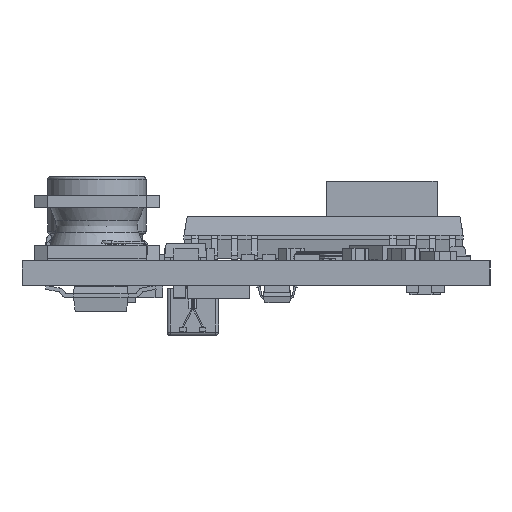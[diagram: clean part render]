
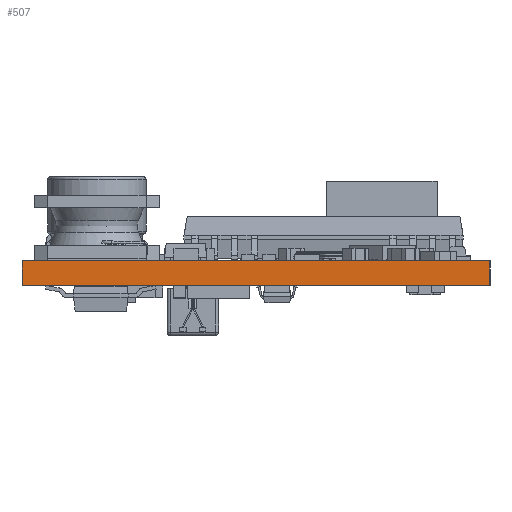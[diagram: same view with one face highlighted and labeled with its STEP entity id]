
A CAD part, left-side view. The second image highlights one B-rep face of the part: STEP entity #507.
In plain terms, the highlighted planar face has unit normal (-1, 0, 0).
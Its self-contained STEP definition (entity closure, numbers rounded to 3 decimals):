
#244 = EDGE_CURVE('',#245,#247,#249,.T.);
#245 = VERTEX_POINT('',#246);
#246 = CARTESIAN_POINT('',(0.,0.,0.));
#247 = VERTEX_POINT('',#248);
#248 = CARTESIAN_POINT('',(0.,0.,1.591));
#249 = SURFACE_CURVE('',#250,(#254,#266),.PCURVE_S1.);
#250 = LINE('',#251,#252);
#251 = CARTESIAN_POINT('',(0.,0.,0.));
#252 = VECTOR('',#253,1.);
#253 = DIRECTION('',(0.,0.,1.));
#254 = PCURVE('',#255,#260);
#255 = PLANE('',#256);
#256 = AXIS2_PLACEMENT_3D('',#257,#258,#259);
#257 = CARTESIAN_POINT('',(0.,0.,0.));
#258 = DIRECTION('',(0.,1.,0.));
#259 = DIRECTION('',(1.,0.,0.));
#260 = DEFINITIONAL_REPRESENTATION('',(#261),#265);
#261 = LINE('',#262,#263);
#262 = CARTESIAN_POINT('',(0.,0.));
#263 = VECTOR('',#264,1.);
#264 = DIRECTION('',(0.,-1.));
#265 = ( GEOMETRIC_REPRESENTATION_CONTEXT(2) 
PARAMETRIC_REPRESENTATION_CONTEXT() REPRESENTATION_CONTEXT('2D SPACE',''
  ) );
#266 = PCURVE('',#267,#272);
#267 = PLANE('',#268);
#268 = AXIS2_PLACEMENT_3D('',#269,#270,#271);
#269 = CARTESIAN_POINT('',(0.,30.,0.));
#270 = DIRECTION('',(1.,0.,0.));
#271 = DIRECTION('',(0.,-1.,0.));
#272 = DEFINITIONAL_REPRESENTATION('',(#273),#277);
#273 = LINE('',#274,#275);
#274 = CARTESIAN_POINT('',(30.,0.));
#275 = VECTOR('',#276,1.);
#276 = DIRECTION('',(0.,-1.));
#277 = ( GEOMETRIC_REPRESENTATION_CONTEXT(2) 
PARAMETRIC_REPRESENTATION_CONTEXT() REPRESENTATION_CONTEXT('2D SPACE',''
  ) );
#295 = PLANE('',#296);
#296 = AXIS2_PLACEMENT_3D('',#297,#298,#299);
#297 = CARTESIAN_POINT('',(0.,0.,1.591));
#298 = DIRECTION('',(0.,0.,-1.));
#299 = DIRECTION('',(-1.,0.,0.));
#349 = PLANE('',#350);
#350 = AXIS2_PLACEMENT_3D('',#351,#352,#353);
#351 = CARTESIAN_POINT('',(0.,0.,0.));
#352 = DIRECTION('',(0.,0.,-1.));
#353 = DIRECTION('',(-1.,0.,0.));
#404 = PLANE('',#405);
#405 = AXIS2_PLACEMENT_3D('',#406,#407,#408);
#406 = CARTESIAN_POINT('',(55.,30.,0.));
#407 = DIRECTION('',(0.,-1.,0.));
#408 = DIRECTION('',(-1.,0.,0.));
#442 = VERTEX_POINT('',#443);
#443 = CARTESIAN_POINT('',(0.,30.,1.591));
#464 = EDGE_CURVE('',#465,#442,#467,.T.);
#465 = VERTEX_POINT('',#466);
#466 = CARTESIAN_POINT('',(0.,30.,0.));
#467 = SURFACE_CURVE('',#468,(#472,#479),.PCURVE_S1.);
#468 = LINE('',#469,#470);
#469 = CARTESIAN_POINT('',(0.,30.,0.));
#470 = VECTOR('',#471,1.);
#471 = DIRECTION('',(0.,0.,1.));
#472 = PCURVE('',#404,#473);
#473 = DEFINITIONAL_REPRESENTATION('',(#474),#478);
#474 = LINE('',#475,#476);
#475 = CARTESIAN_POINT('',(55.,0.));
#476 = VECTOR('',#477,1.);
#477 = DIRECTION('',(0.,-1.));
#478 = ( GEOMETRIC_REPRESENTATION_CONTEXT(2) 
PARAMETRIC_REPRESENTATION_CONTEXT() REPRESENTATION_CONTEXT('2D SPACE',''
  ) );
#479 = PCURVE('',#267,#480);
#480 = DEFINITIONAL_REPRESENTATION('',(#481),#485);
#481 = LINE('',#482,#483);
#482 = CARTESIAN_POINT('',(0.,0.));
#483 = VECTOR('',#484,1.);
#484 = DIRECTION('',(0.,-1.));
#485 = ( GEOMETRIC_REPRESENTATION_CONTEXT(2) 
PARAMETRIC_REPRESENTATION_CONTEXT() REPRESENTATION_CONTEXT('2D SPACE',''
  ) );
#507 = ADVANCED_FACE('',(#508),#267,.F.);
#508 = FACE_BOUND('',#509,.F.);
#509 = EDGE_LOOP('',(#510,#511,#532,#533));
#510 = ORIENTED_EDGE('',*,*,#464,.T.);
#511 = ORIENTED_EDGE('',*,*,#512,.T.);
#512 = EDGE_CURVE('',#442,#247,#513,.T.);
#513 = SURFACE_CURVE('',#514,(#518,#525),.PCURVE_S1.);
#514 = LINE('',#515,#516);
#515 = CARTESIAN_POINT('',(0.,30.,1.591));
#516 = VECTOR('',#517,1.);
#517 = DIRECTION('',(0.,-1.,0.));
#518 = PCURVE('',#267,#519);
#519 = DEFINITIONAL_REPRESENTATION('',(#520),#524);
#520 = LINE('',#521,#522);
#521 = CARTESIAN_POINT('',(0.,-1.591));
#522 = VECTOR('',#523,1.);
#523 = DIRECTION('',(1.,0.));
#524 = ( GEOMETRIC_REPRESENTATION_CONTEXT(2) 
PARAMETRIC_REPRESENTATION_CONTEXT() REPRESENTATION_CONTEXT('2D SPACE',''
  ) );
#525 = PCURVE('',#295,#526);
#526 = DEFINITIONAL_REPRESENTATION('',(#527),#531);
#527 = LINE('',#528,#529);
#528 = CARTESIAN_POINT('',(0.,30.));
#529 = VECTOR('',#530,1.);
#530 = DIRECTION('',(0.,-1.));
#531 = ( GEOMETRIC_REPRESENTATION_CONTEXT(2) 
PARAMETRIC_REPRESENTATION_CONTEXT() REPRESENTATION_CONTEXT('2D SPACE',''
  ) );
#532 = ORIENTED_EDGE('',*,*,#244,.F.);
#533 = ORIENTED_EDGE('',*,*,#534,.F.);
#534 = EDGE_CURVE('',#465,#245,#535,.T.);
#535 = SURFACE_CURVE('',#536,(#540,#547),.PCURVE_S1.);
#536 = LINE('',#537,#538);
#537 = CARTESIAN_POINT('',(0.,30.,0.));
#538 = VECTOR('',#539,1.);
#539 = DIRECTION('',(0.,-1.,0.));
#540 = PCURVE('',#267,#541);
#541 = DEFINITIONAL_REPRESENTATION('',(#542),#546);
#542 = LINE('',#543,#544);
#543 = CARTESIAN_POINT('',(0.,0.));
#544 = VECTOR('',#545,1.);
#545 = DIRECTION('',(1.,0.));
#546 = ( GEOMETRIC_REPRESENTATION_CONTEXT(2) 
PARAMETRIC_REPRESENTATION_CONTEXT() REPRESENTATION_CONTEXT('2D SPACE',''
  ) );
#547 = PCURVE('',#349,#548);
#548 = DEFINITIONAL_REPRESENTATION('',(#549),#553);
#549 = LINE('',#550,#551);
#550 = CARTESIAN_POINT('',(0.,30.));
#551 = VECTOR('',#552,1.);
#552 = DIRECTION('',(0.,-1.));
#553 = ( GEOMETRIC_REPRESENTATION_CONTEXT(2) 
PARAMETRIC_REPRESENTATION_CONTEXT() REPRESENTATION_CONTEXT('2D SPACE',''
  ) );
